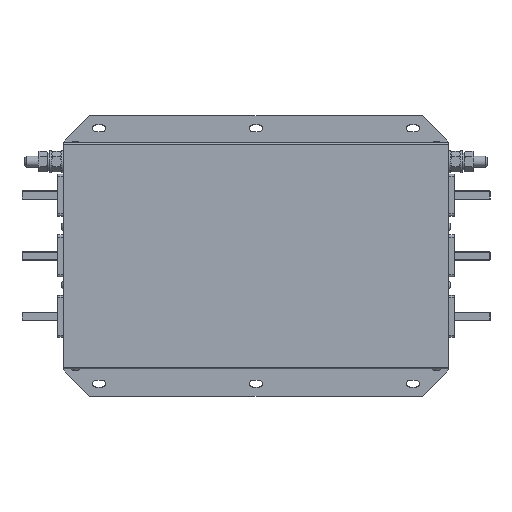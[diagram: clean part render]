
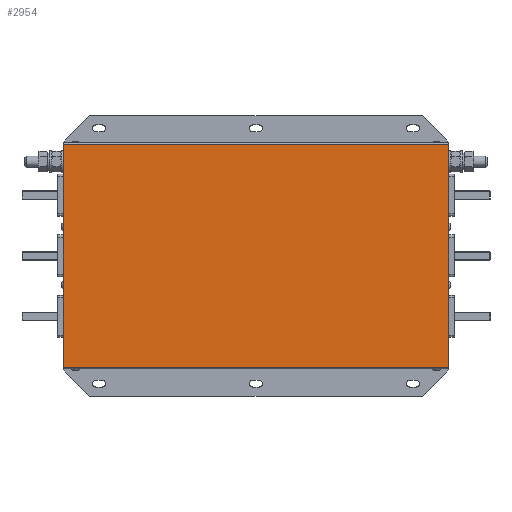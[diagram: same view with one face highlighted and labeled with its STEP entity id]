
A CAD part, top view. The second image highlights one B-rep face of the part: STEP entity #2954.
In plain terms, the highlighted planar face has unit normal (0, 0, 1).
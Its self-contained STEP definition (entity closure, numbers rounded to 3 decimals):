
#2954=ADVANCED_FACE('',(#5753),#5755,.T.);
#5753=FACE_BOUND('',#5754,.T.);
#5754=EDGE_LOOP('',(#8260,#8261,#8262,#8263));
#5755=PLANE('',#5756);
#5756=AXIS2_PLACEMENT_3D('',#5757,#5758,#5759);
#5757=CARTESIAN_POINT('',(0.,0.,1.));
#5758=DIRECTION('',(0.,0.,1.));
#5759=DIRECTION('',(1.,0.,0.));
#8260=ORIENTED_EDGE('',*,*,#9356,.T.);
#8261=ORIENTED_EDGE('',*,*,#9370,.T.);
#8262=ORIENTED_EDGE('',*,*,#9364,.T.);
#8263=ORIENTED_EDGE('',*,*,#9371,.T.);
#9356=EDGE_CURVE('',#10401,#10399,#10402,.T.);
#9364=EDGE_CURVE('',#10413,#10411,#10414,.T.);
#9370=EDGE_CURVE('',#10399,#10413,#10420,.T.);
#9371=EDGE_CURVE('',#10411,#10401,#10421,.T.);
#10399=VERTEX_POINT('',#12733);
#10401=VERTEX_POINT('',#12738);
#10402=LINE('',#12739,#12740);
#10411=VERTEX_POINT('',#12765);
#10413=VERTEX_POINT('',#12770);
#10414=LINE('',#12771,#12772);
#10420=LINE('',#12790,#12791);
#10421=LINE('',#12793,#12794);
#12733=CARTESIAN_POINT('',(175.,-101.5,1.));
#12738=CARTESIAN_POINT('',(-175.,-101.5,1.));
#12739=CARTESIAN_POINT('',(-175.,-101.5,1.));
#12740=VECTOR('',#12741,1.);
#12741=DIRECTION('',(1.,0.,0.));
#12765=CARTESIAN_POINT('',(-175.,101.5,1.));
#12770=CARTESIAN_POINT('',(175.,101.5,1.));
#12771=CARTESIAN_POINT('',(175.,101.5,1.));
#12772=VECTOR('',#12773,1.);
#12773=DIRECTION('',(-1.,0.,0.));
#12790=CARTESIAN_POINT('',(175.,-101.5,1.));
#12791=VECTOR('',#12792,1.);
#12792=DIRECTION('',(0.,1.,0.));
#12793=CARTESIAN_POINT('',(-175.,101.5,1.));
#12794=VECTOR('',#12795,1.);
#12795=DIRECTION('',(0.,-1.,0.));
